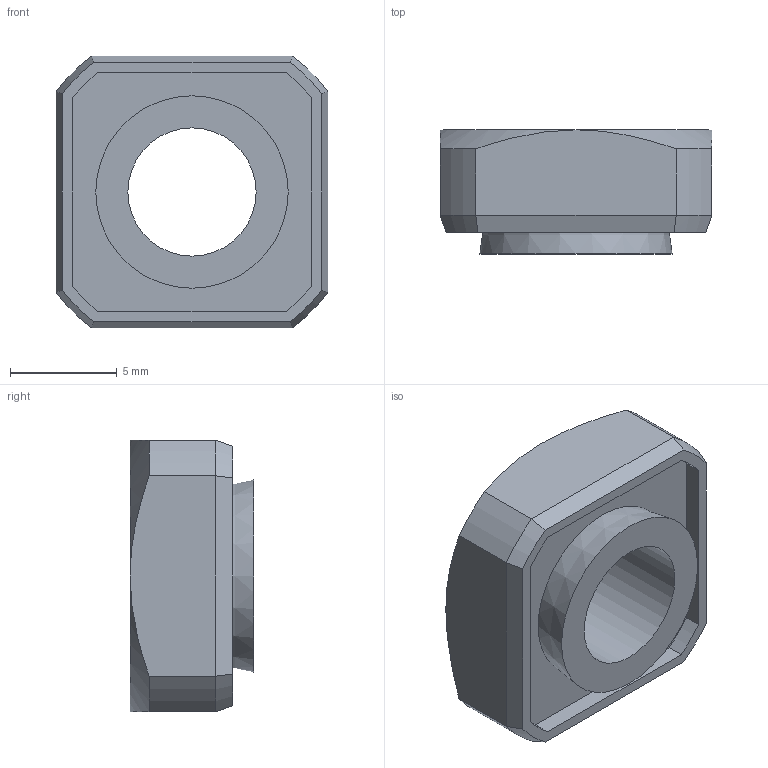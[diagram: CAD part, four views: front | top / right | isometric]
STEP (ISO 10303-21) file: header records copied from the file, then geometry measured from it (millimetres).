
FILE_DESCRIPTION(/* description */ (''),/* implementation_level */ '2;1');
FILE_NAME(/* name */ 'D:\Sukhmani\Fastit\KP Nut\KP 6-H.stp',/* time_stamp */ '2024-03-14T12:24:58+06:00',/* author */ ('edc.sukhmani'),/* organization */ (''),/* preprocessor_version */ 'ST-DEVELOPER v18.1',/* originating_system */ 'Autodesk Inventor 2022',/* authorisation */ '');
FILE_SCHEMA (('AUTOMOTIVE_DESIGN { 1 0 10303 214 3 1 1 }'));
Length unit declared in the file: millimetre
Products named in the file (1): KP 6-H
Bounding box: 12.72 x 5.8 x 12.72 mm (x, y, z)
Volume: 575.7 mm3; surface area: 649.7 mm2
Topology: 1 solids, 1 shells, 36 faces, 84 edges, 52 vertices
Faces by surface type: plane 16, cone 10, cylinder 10
Full cylindrical faces by diameter (mm): 6 x1, 7.25 x1
Entity records: 1055 total; most frequent: CARTESIAN_POINT 205, DIRECTION 174, ORIENTED_EDGE 168, EDGE_CURVE 84, AXIS2_PLACEMENT_3D 69, VERTEX_POINT 52, EDGE_LOOP 40, FACE_OUTER_BOUND 36
